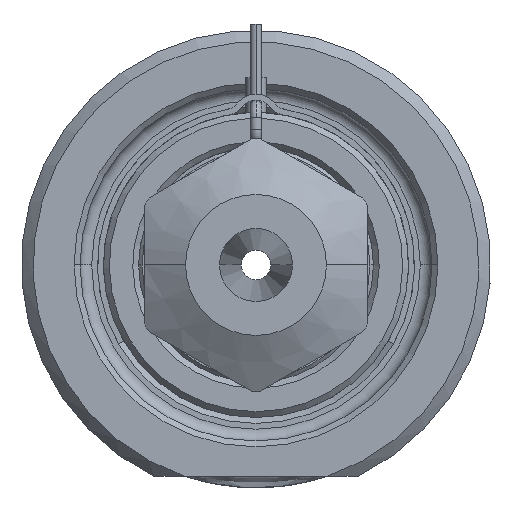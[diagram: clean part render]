
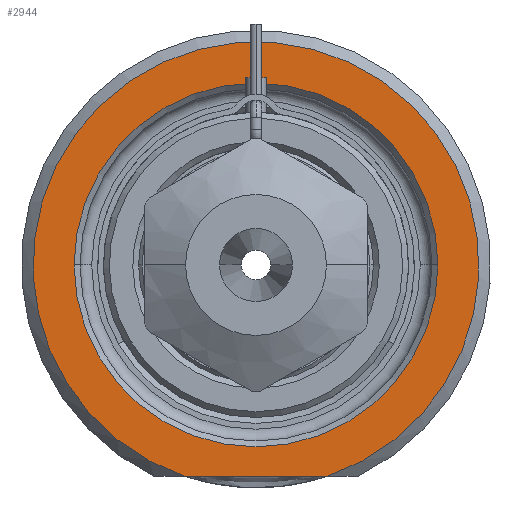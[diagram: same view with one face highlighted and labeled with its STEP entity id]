
A CAD part, front view. The second image highlights one B-rep face of the part: STEP entity #2944.
In plain terms, the highlighted planar face has unit normal (0, -1, 0).
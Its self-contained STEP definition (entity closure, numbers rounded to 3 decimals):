
#1=DIRECTION('',(1.,0.,0.));
#2=VECTOR('',#1,12.166);
#3=CARTESIAN_POINT('',(-6.083,0.,-18.));
#4=LINE('',#3,#2);
#5=CARTESIAN_POINT('',(0.,0.,0.));
#6=DIRECTION('',(0.,1.,0.));
#7=DIRECTION('',(-1.,0.,0.));
#8=AXIS2_PLACEMENT_3D('',#5,#6,#7);
#10=CARTESIAN_POINT('',(0.,0.,0.));
#11=DIRECTION('',(0.,1.,0.));
#12=DIRECTION('',(1.,0.,0.));
#13=AXIS2_PLACEMENT_3D('',#10,#11,#12);
#264=CARTESIAN_POINT('',(0.,0.,0.));
#265=DIRECTION('',(0.,-1.,0.));
#266=DIRECTION('',(0.32,0.,-0.947));
#267=AXIS2_PLACEMENT_3D('',#264,#265,#266);
#2476=CARTESIAN_POINT('',(-15.5,0.,0.));
#2477=CARTESIAN_POINT('',(15.5,0.,0.));
#2478=VERTEX_POINT('',#2476);
#2479=VERTEX_POINT('',#2477);
#2534=CARTESIAN_POINT('',(-6.083,0.,-18.));
#2535=CARTESIAN_POINT('',(6.083,0.,-18.));
#2536=VERTEX_POINT('',#2534);
#2537=VERTEX_POINT('',#2535);
#2927=CARTESIAN_POINT('',(0.,0.,0.));
#2928=DIRECTION('',(0.,-1.,0.));
#2929=DIRECTION('',(1.,0.,0.));
#2930=AXIS2_PLACEMENT_3D('',#2927,#2928,#2929);
#2931=PLANE('',#2930);
#2933=ORIENTED_EDGE('',*,*,#2932,.F.);
#2935=ORIENTED_EDGE('',*,*,#2934,.F.);
#2936=EDGE_LOOP('',(#2933,#2935));
#2937=FACE_OUTER_BOUND('',#2936,.F.);
#2939=ORIENTED_EDGE('',*,*,#2938,.F.);
#2941=ORIENTED_EDGE('',*,*,#2940,.F.);
#2942=EDGE_LOOP('',(#2939,#2941));
#2943=FACE_BOUND('',#2942,.F.);
#2944=ADVANCED_FACE('',(#2937,#2943),#2931,.T.);
#9=CIRCLE('',#8,15.5);
#14=CIRCLE('',#13,15.5);
#268=CIRCLE('',#267,19.);
#2932=EDGE_CURVE('',#2536,#2537,#4,.T.);
#2934=EDGE_CURVE('',#2537,#2536,#268,.T.);
#2938=EDGE_CURVE('',#2478,#2479,#9,.T.);
#2940=EDGE_CURVE('',#2479,#2478,#14,.T.);
